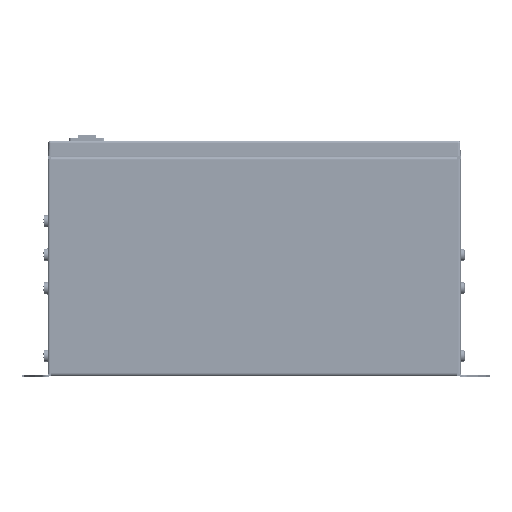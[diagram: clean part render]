
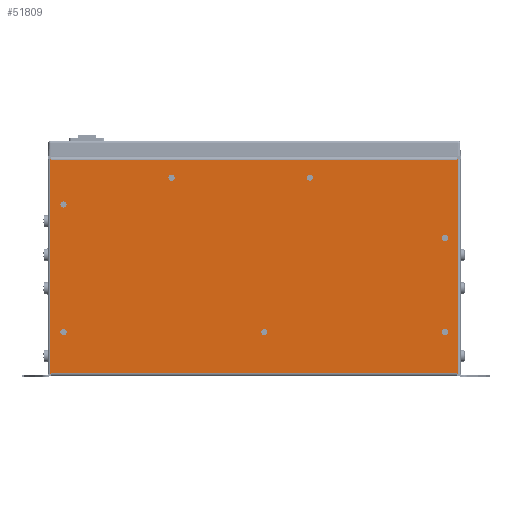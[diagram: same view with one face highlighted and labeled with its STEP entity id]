
A CAD part, left-side view. The second image highlights one B-rep face of the part: STEP entity #51809.
In plain terms, the highlighted planar face has unit normal (-1, 0, 0).
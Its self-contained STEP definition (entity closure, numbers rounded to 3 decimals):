
#10911=DIRECTION('',(0.,-1.,0.));
#10912=VECTOR('',#10911,9.092);
#10913=CARTESIAN_POINT('',(-3.532,-0.078,-4.803));
#10914=LINE('',#10913,#10912);
#10920=DIRECTION('',(0.,-1.,0.));
#10921=VECTOR('',#10920,9.092);
#10922=CARTESIAN_POINT('',(-3.532,-0.078,-0.031));
#10923=LINE('',#10922,#10921);
#10924=DIRECTION('',(0.,0.,-1.));
#10925=VECTOR('',#10924,0.031);
#10926=CARTESIAN_POINT('',(-3.532,-9.17,0.));
#10927=LINE('',#10926,#10925);
#10928=DIRECTION('',(0.,0.,-1.));
#10929=VECTOR('',#10928,0.031);
#10930=CARTESIAN_POINT('',(-3.532,-9.17,-4.803));
#10931=LINE('',#10930,#10929);
#10932=DIRECTION('',(0.,0.,-1.));
#10933=VECTOR('',#10932,0.031);
#10934=CARTESIAN_POINT('',(-3.532,-0.078,-4.803));
#10935=LINE('',#10934,#10933);
#10936=DIRECTION('',(0.,0.,-1.));
#10937=VECTOR('',#10936,0.031);
#10938=CARTESIAN_POINT('',(-3.532,-0.078,0.));
#10939=LINE('',#10938,#10937);
#10940=CARTESIAN_POINT('',(-3.532,-0.349,-1.03));
#10941=DIRECTION('',(1.,0.,0.));
#10942=DIRECTION('',(0.,0.,1.));
#10943=AXIS2_PLACEMENT_3D('',#10940,#10941,#10942);
#10945=CARTESIAN_POINT('',(-3.532,-0.349,-1.03));
#10946=DIRECTION('',(1.,0.,0.));
#10947=DIRECTION('',(0.,0.,-1.));
#10948=AXIS2_PLACEMENT_3D('',#10945,#10946,#10947);
#10950=CARTESIAN_POINT('',(-3.532,-0.349,-3.89));
#10951=DIRECTION('',(1.,0.,0.));
#10952=DIRECTION('',(0.,0.,1.));
#10953=AXIS2_PLACEMENT_3D('',#10950,#10951,#10952);
#10955=CARTESIAN_POINT('',(-3.532,-0.349,-3.89));
#10956=DIRECTION('',(1.,0.,0.));
#10957=DIRECTION('',(0.,0.,-1.));
#10958=AXIS2_PLACEMENT_3D('',#10955,#10956,#10957);
#10960=CARTESIAN_POINT('',(-3.532,-8.899,-3.89));
#10961=DIRECTION('',(1.,0.,0.));
#10962=DIRECTION('',(0.,0.,1.));
#10963=AXIS2_PLACEMENT_3D('',#10960,#10961,#10962);
#10965=CARTESIAN_POINT('',(-3.532,-8.899,-3.89));
#10966=DIRECTION('',(1.,0.,0.));
#10967=DIRECTION('',(0.,0.,-1.));
#10968=AXIS2_PLACEMENT_3D('',#10965,#10966,#10967);
#10970=CARTESIAN_POINT('',(-3.532,-8.899,-1.78));
#10971=DIRECTION('',(1.,0.,0.));
#10972=DIRECTION('',(0.,0.,1.));
#10973=AXIS2_PLACEMENT_3D('',#10970,#10971,#10972);
#10975=CARTESIAN_POINT('',(-3.532,-8.899,-1.78));
#10976=DIRECTION('',(1.,0.,0.));
#10977=DIRECTION('',(0.,0.,-1.));
#10978=AXIS2_PLACEMENT_3D('',#10975,#10976,#10977);
#10980=CARTESIAN_POINT('',(-3.532,-4.849,-3.89));
#10981=DIRECTION('',(1.,0.,0.));
#10982=DIRECTION('',(0.,0.,1.));
#10983=AXIS2_PLACEMENT_3D('',#10980,#10981,#10982);
#10985=CARTESIAN_POINT('',(-3.532,-4.849,-3.89));
#10986=DIRECTION('',(1.,0.,0.));
#10987=DIRECTION('',(0.,0.,-1.));
#10988=AXIS2_PLACEMENT_3D('',#10985,#10986,#10987);
#10990=CARTESIAN_POINT('',(-3.532,-2.771,-0.43));
#10991=DIRECTION('',(1.,0.,0.));
#10992=DIRECTION('',(0.,0.,1.));
#10993=AXIS2_PLACEMENT_3D('',#10990,#10991,#10992);
#10995=CARTESIAN_POINT('',(-3.532,-2.771,-0.43));
#10996=DIRECTION('',(1.,0.,0.));
#10997=DIRECTION('',(0.,0.,-1.));
#10998=AXIS2_PLACEMENT_3D('',#10995,#10996,#10997);
#11000=CARTESIAN_POINT('',(-3.532,-5.871,-0.43));
#11001=DIRECTION('',(1.,0.,0.));
#11002=DIRECTION('',(0.,0.,1.));
#11003=AXIS2_PLACEMENT_3D('',#11000,#11001,#11002);
#11005=CARTESIAN_POINT('',(-3.532,-5.871,-0.43));
#11006=DIRECTION('',(1.,0.,0.));
#11007=DIRECTION('',(0.,0.,-1.));
#11008=AXIS2_PLACEMENT_3D('',#11005,#11006,#11007);
#11073=DIRECTION('',(0.,1.,0.));
#11074=VECTOR('',#11073,0.03);
#11075=CARTESIAN_POINT('',(-3.532,-0.078,0.));
#11076=LINE('',#11075,#11074);
#11104=DIRECTION('',(0.,0.,-1.));
#11105=VECTOR('',#11104,4.834);
#11106=CARTESIAN_POINT('',(-3.532,-0.048,0.));
#11107=LINE('',#11106,#11105);
#11130=DIRECTION('',(0.,1.,0.));
#11131=VECTOR('',#11130,0.03);
#11132=CARTESIAN_POINT('',(-3.532,-0.078,-4.834));
#11133=LINE('',#11132,#11131);
#11215=DIRECTION('',(0.,-1.,0.));
#11216=VECTOR('',#11215,0.03);
#11217=CARTESIAN_POINT('',(-3.532,-9.17,-4.834));
#11218=LINE('',#11217,#11216);
#14993=DIRECTION('',(0.,-1.,0.));
#14994=VECTOR('',#14993,0.03);
#14995=CARTESIAN_POINT('',(-3.532,-9.17,0.));
#14996=LINE('',#14995,#14994);
#24403=DIRECTION('',(0.,0.,-1.));
#24404=VECTOR('',#24403,4.834);
#24405=CARTESIAN_POINT('',(-3.532,-9.2,0.));
#24406=LINE('',#24405,#24404);
#35642=CARTESIAN_POINT('',(-3.532,-0.349,-0.96));
#35643=CARTESIAN_POINT('',(-3.532,-0.349,-1.1));
#35644=VERTEX_POINT('',#35642);
#35645=VERTEX_POINT('',#35643);
#35650=CARTESIAN_POINT('',(-3.532,-0.349,-3.82));
#35651=CARTESIAN_POINT('',(-3.532,-0.349,-3.96));
#35652=VERTEX_POINT('',#35650);
#35653=VERTEX_POINT('',#35651);
#35658=CARTESIAN_POINT('',(-3.532,-8.899,-3.82));
#35659=CARTESIAN_POINT('',(-3.532,-8.899,-3.96));
#35660=VERTEX_POINT('',#35658);
#35661=VERTEX_POINT('',#35659);
#35666=CARTESIAN_POINT('',(-3.532,-8.899,-1.71));
#35667=CARTESIAN_POINT('',(-3.532,-8.899,-1.85));
#35668=VERTEX_POINT('',#35666);
#35669=VERTEX_POINT('',#35667);
#35682=CARTESIAN_POINT('',(-3.532,-4.849,-3.82));
#35683=CARTESIAN_POINT('',(-3.532,-4.849,-3.96));
#35684=VERTEX_POINT('',#35682);
#35685=VERTEX_POINT('',#35683);
#35730=CARTESIAN_POINT('',(-3.532,-0.078,0.));
#35731=CARTESIAN_POINT('',(-3.532,-0.048,0.));
#35732=VERTEX_POINT('',#35730);
#35733=VERTEX_POINT('',#35731);
#35740=CARTESIAN_POINT('',(-3.532,-0.078,-4.834));
#35741=CARTESIAN_POINT('',(-3.532,-0.048,-4.834));
#35742=VERTEX_POINT('',#35740);
#35743=VERTEX_POINT('',#35741);
#35751=CARTESIAN_POINT('',(-3.532,-0.078,-0.031));
#35753=VERTEX_POINT('',#35751);
#35754=CARTESIAN_POINT('',(-3.532,-0.078,-4.803));
#35756=VERTEX_POINT('',#35754);
#39326=CARTESIAN_POINT('',(-3.532,-9.17,0.));
#39327=CARTESIAN_POINT('',(-3.532,-9.2,0.));
#39328=VERTEX_POINT('',#39326);
#39329=VERTEX_POINT('',#39327);
#39336=CARTESIAN_POINT('',(-3.532,-9.17,-4.834));
#39337=CARTESIAN_POINT('',(-3.532,-9.2,-4.834));
#39338=VERTEX_POINT('',#39336);
#39339=VERTEX_POINT('',#39337);
#39347=CARTESIAN_POINT('',(-3.532,-9.17,-0.031));
#39349=VERTEX_POINT('',#39347);
#39350=CARTESIAN_POINT('',(-3.532,-9.17,-4.803));
#39352=VERTEX_POINT('',#39350);
#41104=CARTESIAN_POINT('',(-3.532,-2.771,-0.36));
#41105=CARTESIAN_POINT('',(-3.532,-2.771,-0.5));
#41106=VERTEX_POINT('',#41104);
#41107=VERTEX_POINT('',#41105);
#41120=CARTESIAN_POINT('',(-3.532,-5.871,-0.36));
#41121=CARTESIAN_POINT('',(-3.532,-5.871,-0.5));
#41122=VERTEX_POINT('',#41120);
#41123=VERTEX_POINT('',#41121);
#51738=CARTESIAN_POINT('',(-3.532,0.,-0.031));
#51739=DIRECTION('',(-1.,0.,0.));
#51740=DIRECTION('',(0.,0.,-1.));
#51741=AXIS2_PLACEMENT_3D('',#51738,#51739,#51740);
#51742=PLANE('',#51741);
#51744=ORIENTED_EDGE('',*,*,#51743,.T.);
#51746=ORIENTED_EDGE('',*,*,#51745,.F.);
#51748=ORIENTED_EDGE('',*,*,#51747,.T.);
#51750=ORIENTED_EDGE('',*,*,#51749,.T.);
#51752=ORIENTED_EDGE('',*,*,#51751,.F.);
#51753=ORIENTED_EDGE('',*,*,#51724,.F.);
#51754=ORIENTED_EDGE('',*,*,#51706,.F.);
#51756=ORIENTED_EDGE('',*,*,#51755,.T.);
#51758=ORIENTED_EDGE('',*,*,#51757,.T.);
#51760=ORIENTED_EDGE('',*,*,#51759,.F.);
#51762=ORIENTED_EDGE('',*,*,#51761,.F.);
#51764=ORIENTED_EDGE('',*,*,#51763,.T.);
#51765=EDGE_LOOP('',(#51744,#51746,#51748,#51750,#51752,#51753,#51754,#51756,
#51758,#51760,#51762,#51764));
#51766=FACE_OUTER_BOUND('',#51765,.F.);
#51768=ORIENTED_EDGE('',*,*,#51767,.F.);
#51770=ORIENTED_EDGE('',*,*,#51769,.F.);
#51771=EDGE_LOOP('',(#51768,#51770));
#51772=FACE_BOUND('',#51771,.F.);
#51774=ORIENTED_EDGE('',*,*,#51773,.F.);
#51776=ORIENTED_EDGE('',*,*,#51775,.F.);
#51777=EDGE_LOOP('',(#51774,#51776));
#51778=FACE_BOUND('',#51777,.F.);
#51780=ORIENTED_EDGE('',*,*,#51779,.F.);
#51782=ORIENTED_EDGE('',*,*,#51781,.F.);
#51783=EDGE_LOOP('',(#51780,#51782));
#51784=FACE_BOUND('',#51783,.F.);
#51786=ORIENTED_EDGE('',*,*,#51785,.F.);
#51788=ORIENTED_EDGE('',*,*,#51787,.F.);
#51789=EDGE_LOOP('',(#51786,#51788));
#51790=FACE_BOUND('',#51789,.F.);
#51792=ORIENTED_EDGE('',*,*,#51791,.F.);
#51794=ORIENTED_EDGE('',*,*,#51793,.F.);
#51795=EDGE_LOOP('',(#51792,#51794));
#51796=FACE_BOUND('',#51795,.F.);
#51798=ORIENTED_EDGE('',*,*,#51797,.F.);
#51800=ORIENTED_EDGE('',*,*,#51799,.F.);
#51801=EDGE_LOOP('',(#51798,#51800));
#51802=FACE_BOUND('',#51801,.F.);
#51804=ORIENTED_EDGE('',*,*,#51803,.F.);
#51806=ORIENTED_EDGE('',*,*,#51805,.F.);
#51807=EDGE_LOOP('',(#51804,#51806));
#51808=FACE_BOUND('',#51807,.F.);
#51809=ADVANCED_FACE('',(#51766,#51772,#51778,#51784,#51790,#51796,#51802,
#51808),#51742,.T.);
#10944=CIRCLE('',#10943,0.07);
#10949=CIRCLE('',#10948,0.07);
#10954=CIRCLE('',#10953,0.07);
#10959=CIRCLE('',#10958,0.07);
#10964=CIRCLE('',#10963,0.07);
#10969=CIRCLE('',#10968,0.07);
#10974=CIRCLE('',#10973,0.07);
#10979=CIRCLE('',#10978,0.07);
#10984=CIRCLE('',#10983,0.07);
#10989=CIRCLE('',#10988,0.07);
#10994=CIRCLE('',#10993,0.07);
#10999=CIRCLE('',#10998,0.07);
#11004=CIRCLE('',#11003,0.07);
#11009=CIRCLE('',#11008,0.07);
#51706=EDGE_CURVE('',#35756,#39352,#10914,.T.);
#51724=EDGE_CURVE('',#39352,#39338,#10931,.T.);
#51743=EDGE_CURVE('',#35753,#39349,#10923,.T.);
#51745=EDGE_CURVE('',#39328,#39349,#10927,.T.);
#51747=EDGE_CURVE('',#39328,#39329,#14996,.T.);
#51749=EDGE_CURVE('',#39329,#39339,#24406,.T.);
#51751=EDGE_CURVE('',#39338,#39339,#11218,.T.);
#51755=EDGE_CURVE('',#35756,#35742,#10935,.T.);
#51757=EDGE_CURVE('',#35742,#35743,#11133,.T.);
#51759=EDGE_CURVE('',#35733,#35743,#11107,.T.);
#51761=EDGE_CURVE('',#35732,#35733,#11076,.T.);
#51763=EDGE_CURVE('',#35732,#35753,#10939,.T.);
#51767=EDGE_CURVE('',#35644,#35645,#10944,.T.);
#51769=EDGE_CURVE('',#35645,#35644,#10949,.T.);
#51773=EDGE_CURVE('',#35652,#35653,#10954,.T.);
#51775=EDGE_CURVE('',#35653,#35652,#10959,.T.);
#51779=EDGE_CURVE('',#35660,#35661,#10964,.T.);
#51781=EDGE_CURVE('',#35661,#35660,#10969,.T.);
#51785=EDGE_CURVE('',#35668,#35669,#10974,.T.);
#51787=EDGE_CURVE('',#35669,#35668,#10979,.T.);
#51791=EDGE_CURVE('',#35684,#35685,#10984,.T.);
#51793=EDGE_CURVE('',#35685,#35684,#10989,.T.);
#51797=EDGE_CURVE('',#41106,#41107,#10994,.T.);
#51799=EDGE_CURVE('',#41107,#41106,#10999,.T.);
#51803=EDGE_CURVE('',#41122,#41123,#11004,.T.);
#51805=EDGE_CURVE('',#41123,#41122,#11009,.T.);
